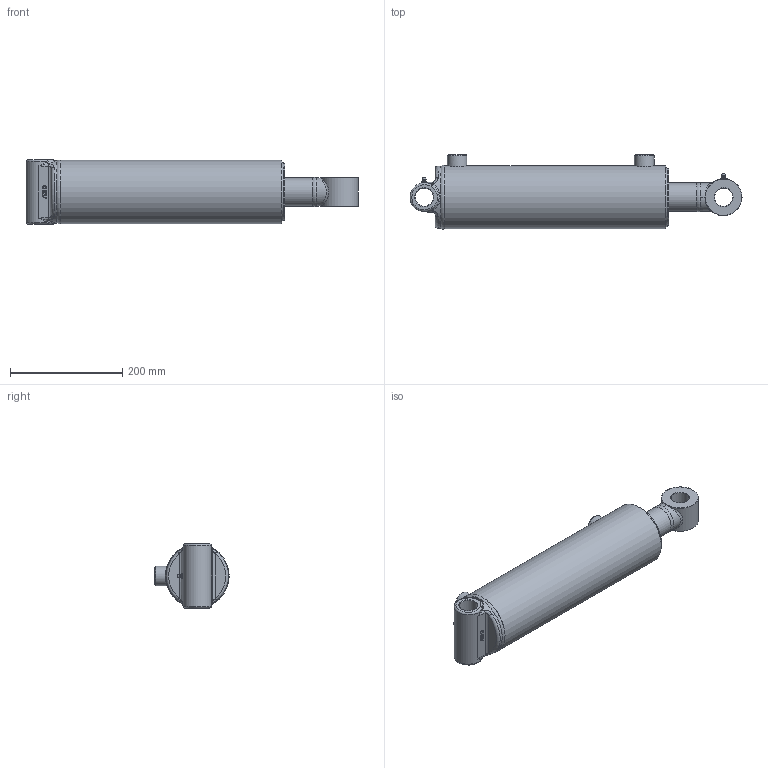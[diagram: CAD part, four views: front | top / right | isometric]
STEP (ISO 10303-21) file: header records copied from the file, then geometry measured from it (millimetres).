
FILE_DESCRIPTION(/* description */ ('Ø4.00 X 12.00 DA'),/* implementation_level */ '2;1');
FILE_NAME(/* name */ 'D:\Temp\1EC646C85C0AA06\y23t31ff.05b\Temp\yubees5u..stp',/* time_stamp */ '2020-09-18T15:50:11+00:00',/* author */ (''),/* organization */ ('PRINCE MANUFACTURING'),/* preprocessor_version */ 'ST-DEVELOPER v18.1',/* originating_system */ 'Autodesk Inventor 2021',/* authorisation */ '');
FILE_SCHEMA (('AUTOMOTIVE_DESIGN { 1 0 10303 214 3 1 1 }'));
Length unit declared in the file: inch
Products named in the file (21): PC4012020A00-210XTXS; 0619-XTSG00-120; 0519-T-15620; 161900225; 200015706; 06Weld1_C360; 0719-P-125; 220000212; 0819-G-200; 230025106; 230025006; 240000026; 240061342; 240000342; 0211-AXS40-210X; 0111A-JAW4-17937; 210600511; 02Weld_C360; 240020009; 250014200; 270010020
Assembly tree (22 placements, depth 3):
  PC4012020A00-210XTXS
    0619-XTSG00-120
      0519-T-15620
      161900225
      200015706  x2
      06Weld1_C360
    0719-P-125
    220000212
    0819-G-200
    230025106
    230025006
    240000026
    240061342
    240000342
    0211-AXS40-210X
      0111A-JAW4-17937
      210600511
      02Weld_C360
    240020009
    250014200
    270010020  x2
Bounding box: 591.47 x 132.19 x 114.3 mm (x, y, z)
Volume: 2544059.9 mm3; surface area: 569483.4 mm2
Topology: 26 solids, 26 shells, 499 faces, 1415 edges, 978 vertices
Faces by surface type: plane 139, bspline 126, torus 90, cylinder 80, cone 62, sphere 2
Full cylindrical faces by diameter (mm): 1.524 x2, 5.359 x2, 6.35 x2, 12.7 x2, 20.269 x2, 29.464 x1, 31.699 x1, 31.826 x1, 32.131 x2, 34.315 x1, 34.925 x2, 35.052 x2, 50.8 x1, 50.876 x2, 51.994 x2, 52.832 x1, 53.188 x1, 57.963 x1, 59.157 x1, 60.35 x1, 61.976 x2, 63.5 x2, 73.152 x1, 82.55 x1, 92.177 x2, 92.913 x2, 96.52 x1, 98.031 x2, 98.273 x4, 100.986 x2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
Entity records: 32916 total; most frequent: CARTESIAN_POINT 19556, ORIENTED_EDGE 2656, DIRECTION 2459, EDGE_CURVE 1328, AXIS2_PLACEMENT_3D 1059, VERTEX_POINT 925, CIRCLE 657, EDGE_LOOP 539
